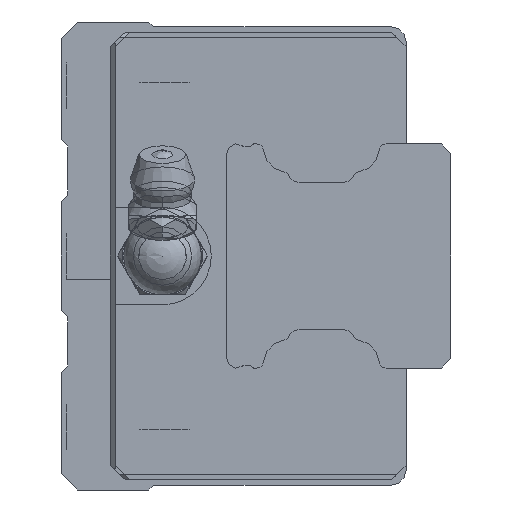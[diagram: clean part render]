
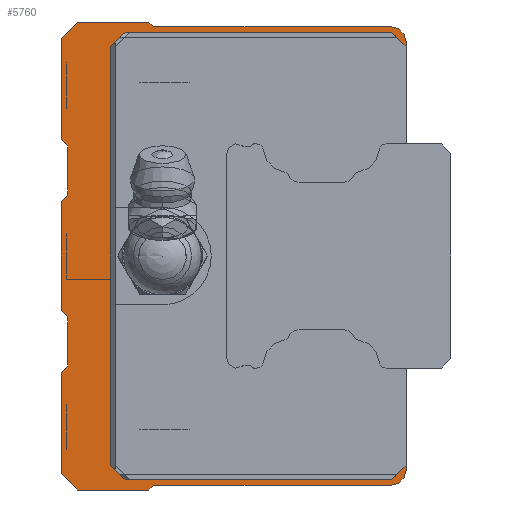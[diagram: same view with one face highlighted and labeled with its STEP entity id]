
A CAD part, left-side view. The second image highlights one B-rep face of the part: STEP entity #5760.
In plain terms, the highlighted planar face has unit normal (-1, 0, 0).
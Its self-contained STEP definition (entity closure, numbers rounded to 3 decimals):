
#107=LINE('',#9056,#457);
#116=LINE('',#9075,#466);
#123=LINE('',#9088,#473);
#149=LINE('',#9144,#499);
#157=LINE('',#9160,#507);
#163=LINE('',#9172,#513);
#188=LINE('',#9223,#538);
#193=LINE('',#9232,#543);
#195=LINE('',#9236,#545);
#216=LINE('',#9326,#566);
#220=LINE('',#9335,#570);
#223=LINE('',#9341,#573);
#227=LINE('',#9353,#577);
#231=LINE('',#9368,#581);
#235=LINE('',#9380,#585);
#238=LINE('',#9386,#588);
#241=LINE('',#9392,#591);
#244=LINE('',#9402,#594);
#247=LINE('',#9408,#597);
#251=LINE('',#9420,#601);
#255=LINE('',#9432,#605);
#258=LINE('',#9442,#608);
#261=LINE('',#9448,#611);
#265=LINE('',#9460,#615);
#269=LINE('',#9472,#619);
#272=LINE('',#9482,#622);
#457=VECTOR('',#7070,1000.);
#466=VECTOR('',#7085,1000.);
#473=VECTOR('',#7096,1000.);
#499=VECTOR('',#7136,1000.);
#507=VECTOR('',#7148,1000.);
#513=VECTOR('',#7160,1000.);
#538=VECTOR('',#7201,1000.);
#543=VECTOR('',#7208,1000.);
#545=VECTOR('',#7212,1000.);
#566=VECTOR('',#7287,1000.);
#570=VECTOR('',#7293,1000.);
#573=VECTOR('',#7298,1000.);
#577=VECTOR('',#7310,1000.);
#581=VECTOR('',#7328,1000.);
#585=VECTOR('',#7340,1000.);
#588=VECTOR('',#7345,1000.);
#591=VECTOR('',#7350,1000.);
#594=VECTOR('',#7359,1000.);
#597=VECTOR('',#7364,1000.);
#601=VECTOR('',#7376,1000.);
#605=VECTOR('',#7388,1000.);
#608=VECTOR('',#7397,1000.);
#611=VECTOR('',#7402,1000.);
#615=VECTOR('',#7414,1000.);
#619=VECTOR('',#7426,1000.);
#622=VECTOR('',#7435,1000.);
#813=PLANE('',#6270);
#1169=CIRCLE('',#6226,0.5);
#1171=CIRCLE('',#6230,1.5);
#1173=CIRCLE('',#6233,1.5);
#1175=CIRCLE('',#6237,0.5);
#1179=CIRCLE('',#6247,0.5);
#1181=CIRCLE('',#6251,0.5);
#1185=CIRCLE('',#6259,0.5);
#1187=CIRCLE('',#6263,0.5);
#1991=ORIENTED_EDGE('',*,*,#3099,.T.);
#1992=ORIENTED_EDGE('',*,*,#3106,.T.);
#1993=ORIENTED_EDGE('',*,*,#3179,.F.);
#1994=ORIENTED_EDGE('',*,*,#3243,.F.);
#1995=ORIENTED_EDGE('',*,*,#3240,.F.);
#1996=ORIENTED_EDGE('',*,*,#3237,.T.);
#1997=ORIENTED_EDGE('',*,*,#3234,.F.);
#1998=ORIENTED_EDGE('',*,*,#3231,.F.);
#1999=ORIENTED_EDGE('',*,*,#3227,.F.);
#2000=ORIENTED_EDGE('',*,*,#3305,.F.);
#2001=ORIENTED_EDGE('',*,*,#3300,.F.);
#2002=ORIENTED_EDGE('',*,*,#3297,.T.);
#2003=ORIENTED_EDGE('',*,*,#3294,.F.);
#2004=ORIENTED_EDGE('',*,*,#3291,.T.);
#2005=ORIENTED_EDGE('',*,*,#3288,.F.);
#2006=ORIENTED_EDGE('',*,*,#3285,.F.);
#2007=ORIENTED_EDGE('',*,*,#3280,.F.);
#2008=ORIENTED_EDGE('',*,*,#3277,.T.);
#2009=ORIENTED_EDGE('',*,*,#3274,.F.);
#2010=ORIENTED_EDGE('',*,*,#3271,.T.);
#2011=ORIENTED_EDGE('',*,*,#3268,.F.);
#2012=ORIENTED_EDGE('',*,*,#3265,.F.);
#2013=ORIENTED_EDGE('',*,*,#3260,.F.);
#2014=ORIENTED_EDGE('',*,*,#3257,.F.);
#2015=ORIENTED_EDGE('',*,*,#3254,.F.);
#2016=ORIENTED_EDGE('',*,*,#3251,.T.);
#2017=ORIENTED_EDGE('',*,*,#3248,.F.);
#2018=ORIENTED_EDGE('',*,*,#3245,.F.);
#2019=ORIENTED_EDGE('',*,*,#3181,.F.);
#2020=ORIENTED_EDGE('',*,*,#3141,.T.);
#2021=ORIENTED_EDGE('',*,*,#3148,.T.);
#2022=ORIENTED_EDGE('',*,*,#3133,.T.);
#2023=ORIENTED_EDGE('',*,*,#3174,.T.);
#2024=ORIENTED_EDGE('',*,*,#3089,.T.);
#3089=EDGE_CURVE('',#3809,#3808,#107,.T.);
#3099=EDGE_CURVE('',#3808,#3815,#116,.T.);
#3106=EDGE_CURVE('',#3815,#3819,#123,.T.);
#3133=EDGE_CURVE('',#3843,#3842,#149,.T.);
#3141=EDGE_CURVE('',#3849,#3848,#157,.T.);
#3148=EDGE_CURVE('',#3848,#3843,#163,.T.);
#3174=EDGE_CURVE('',#3842,#3809,#188,.T.);
#3179=EDGE_CURVE('',#3872,#3819,#193,.T.);
#3181=EDGE_CURVE('',#3849,#3874,#195,.T.);
#3227=EDGE_CURVE('',#3916,#3917,#216,.T.);
#3231=EDGE_CURVE('',#3917,#3920,#220,.T.);
#3234=EDGE_CURVE('',#3920,#3922,#223,.T.);
#3237=EDGE_CURVE('',#3924,#3922,#1169,.T.);
#3240=EDGE_CURVE('',#3924,#3926,#227,.T.);
#3243=EDGE_CURVE('',#3926,#3872,#1171,.T.);
#3245=EDGE_CURVE('',#3874,#3928,#1173,.T.);
#3248=EDGE_CURVE('',#3928,#3930,#231,.T.);
#3251=EDGE_CURVE('',#3932,#3930,#1175,.T.);
#3254=EDGE_CURVE('',#3932,#3934,#235,.T.);
#3257=EDGE_CURVE('',#3934,#3936,#238,.T.);
#3260=EDGE_CURVE('',#3936,#3938,#241,.T.);
#3265=EDGE_CURVE('',#3938,#3942,#244,.T.);
#3268=EDGE_CURVE('',#3942,#3944,#247,.T.);
#3271=EDGE_CURVE('',#3946,#3944,#1179,.T.);
#3274=EDGE_CURVE('',#3946,#3948,#251,.T.);
#3277=EDGE_CURVE('',#3950,#3948,#1181,.T.);
#3280=EDGE_CURVE('',#3950,#3952,#255,.T.);
#3285=EDGE_CURVE('',#3952,#3956,#258,.T.);
#3288=EDGE_CURVE('',#3956,#3958,#261,.T.);
#3291=EDGE_CURVE('',#3960,#3958,#1185,.T.);
#3294=EDGE_CURVE('',#3960,#3962,#265,.T.);
#3297=EDGE_CURVE('',#3964,#3962,#1187,.T.);
#3300=EDGE_CURVE('',#3964,#3966,#269,.T.);
#3305=EDGE_CURVE('',#3966,#3916,#272,.T.);
#3808=VERTEX_POINT('',#9055);
#3809=VERTEX_POINT('',#9057);
#3815=VERTEX_POINT('',#9074);
#3819=VERTEX_POINT('',#9087);
#3842=VERTEX_POINT('',#9143);
#3843=VERTEX_POINT('',#9145);
#3848=VERTEX_POINT('',#9159);
#3849=VERTEX_POINT('',#9161);
#3872=VERTEX_POINT('',#9231);
#3874=VERTEX_POINT('',#9237);
#3916=VERTEX_POINT('',#9327);
#3917=VERTEX_POINT('',#9328);
#3920=VERTEX_POINT('',#9336);
#3922=VERTEX_POINT('',#9342);
#3924=VERTEX_POINT('',#9348);
#3926=VERTEX_POINT('',#9354);
#3928=VERTEX_POINT('',#9363);
#3930=VERTEX_POINT('',#9369);
#3932=VERTEX_POINT('',#9375);
#3934=VERTEX_POINT('',#9381);
#3936=VERTEX_POINT('',#9387);
#3938=VERTEX_POINT('',#9393);
#3942=VERTEX_POINT('',#9403);
#3944=VERTEX_POINT('',#9409);
#3946=VERTEX_POINT('',#9415);
#3948=VERTEX_POINT('',#9421);
#3950=VERTEX_POINT('',#9427);
#3952=VERTEX_POINT('',#9433);
#3956=VERTEX_POINT('',#9443);
#3958=VERTEX_POINT('',#9449);
#3960=VERTEX_POINT('',#9455);
#3962=VERTEX_POINT('',#9461);
#3964=VERTEX_POINT('',#9467);
#3966=VERTEX_POINT('',#9473);
#4418=EDGE_LOOP('',(#1991,#1992,#1993,#1994,#1995,#1996,#1997,#1998,#1999,
#2000,#2001,#2002,#2003,#2004,#2005,#2006,#2007,#2008,#2009,#2010,#2011,
#2012,#2013,#2014,#2015,#2016,#2017,#2018,#2019,#2020,#2021,#2022,#2023,
#2024));
#5083=FACE_BOUND('',#4418,.T.);
#5760=ADVANCED_FACE('',(#5083),#813,.F.);
#6226=AXIS2_PLACEMENT_3D('',#9347,#7303,#7304);
#6230=AXIS2_PLACEMENT_3D('',#9359,#7315,#7316);
#6233=AXIS2_PLACEMENT_3D('',#9362,#7321,#7322);
#6237=AXIS2_PLACEMENT_3D('',#9374,#7333,#7334);
#6247=AXIS2_PLACEMENT_3D('',#9414,#7369,#7370);
#6251=AXIS2_PLACEMENT_3D('',#9426,#7381,#7382);
#6259=AXIS2_PLACEMENT_3D('',#9454,#7407,#7408);
#6263=AXIS2_PLACEMENT_3D('',#9466,#7419,#7420);
#6270=AXIS2_PLACEMENT_3D('',#9485,#7439,#7440);
#7070=DIRECTION('',(0.,-0.707,0.707));
#7085=DIRECTION('',(0.,-1.,0.));
#7096=DIRECTION('',(0.,-0.707,-0.707));
#7136=DIRECTION('',(0.,0.707,0.707));
#7148=DIRECTION('',(0.,0.707,-0.707));
#7160=DIRECTION('',(0.,1.,0.));
#7201=DIRECTION('',(0.,0.,1.));
#7208=DIRECTION('',(0.,0.,-1.));
#7212=DIRECTION('',(0.,0.,-1.));
#7287=DIRECTION('',(0.,-0.707,0.707));
#7293=DIRECTION('',(0.,-1.,0.));
#7298=DIRECTION('',(0.,-0.707,-0.707));
#7303=DIRECTION('',(1.,0.,0.));
#7304=DIRECTION('',(0.,0.,-1.));
#7310=DIRECTION('',(0.,-1.,0.));
#7315=DIRECTION('',(1.,0.,0.));
#7316=DIRECTION('',(0.,0.,-1.));
#7321=DIRECTION('',(1.,0.,0.));
#7322=DIRECTION('',(0.,0.,-1.));
#7328=DIRECTION('',(0.,1.,0.));
#7333=DIRECTION('',(1.,0.,0.));
#7334=DIRECTION('',(0.,0.,-1.));
#7340=DIRECTION('',(0.,0.707,-0.707));
#7345=DIRECTION('',(0.,1.,0.));
#7350=DIRECTION('',(0.,0.707,0.707));
#7359=DIRECTION('',(0.,0.,1.));
#7364=DIRECTION('',(0.,-0.707,0.707));
#7369=DIRECTION('',(1.,0.,0.));
#7370=DIRECTION('',(0.,0.,-1.));
#7376=DIRECTION('',(0.,0.,1.));
#7381=DIRECTION('',(1.,0.,0.));
#7382=DIRECTION('',(0.,0.,-1.));
#7388=DIRECTION('',(0.,0.707,0.707));
#7397=DIRECTION('',(0.,0.,1.));
#7402=DIRECTION('',(0.,-0.707,0.707));
#7407=DIRECTION('',(1.,0.,0.));
#7408=DIRECTION('',(0.,0.,-1.));
#7414=DIRECTION('',(0.,0.,1.));
#7419=DIRECTION('',(1.,0.,0.));
#7420=DIRECTION('',(0.,0.,-1.));
#7426=DIRECTION('',(0.,0.707,0.707));
#7435=DIRECTION('',(0.,0.,1.));
#7439=DIRECTION('',(1.,0.,0.));
#7440=DIRECTION('',(0.,0.,-1.));
#9055=CARTESIAN_POINT('',(-30.,28.82,22.95));
#9056=CARTESIAN_POINT('',(-30.,30.32,21.45));
#9057=CARTESIAN_POINT('',(-30.,30.32,21.45));
#9074=CARTESIAN_POINT('',(-30.,1.5,22.95));
#9075=CARTESIAN_POINT('',(-30.,28.82,22.95));
#9087=CARTESIAN_POINT('',(-30.,0.,21.45));
#9088=CARTESIAN_POINT('',(-30.,1.5,22.95));
#9143=CARTESIAN_POINT('',(-30.,30.32,-21.45));
#9144=CARTESIAN_POINT('',(-30.,28.82,-22.95));
#9145=CARTESIAN_POINT('',(-30.,28.82,-22.95));
#9159=CARTESIAN_POINT('',(-30.,1.5,-22.95));
#9160=CARTESIAN_POINT('',(-30.,0.,-21.45));
#9161=CARTESIAN_POINT('',(-30.,0.,-21.45));
#9172=CARTESIAN_POINT('',(-30.,1.5,-22.95));
#9223=CARTESIAN_POINT('',(-30.,30.32,-21.45));
#9231=CARTESIAN_POINT('',(-30.,0.,22.));
#9232=CARTESIAN_POINT('',(-30.,0.,22.));
#9236=CARTESIAN_POINT('',(-30.,0.,22.));
#9237=CARTESIAN_POINT('',(-30.,0.,-22.));
#9326=CARTESIAN_POINT('',(-30.,35.38,22.3));
#9327=CARTESIAN_POINT('',(-30.,35.38,22.3));
#9328=CARTESIAN_POINT('',(-30.,33.68,24.));
#9335=CARTESIAN_POINT('',(-30.,33.68,24.));
#9336=CARTESIAN_POINT('',(-30.,26.38,24.));
#9341=CARTESIAN_POINT('',(-30.,26.38,24.));
#9342=CARTESIAN_POINT('',(-30.,26.026,23.646));
#9347=CARTESIAN_POINT('',(-30.,25.673,24.));
#9348=CARTESIAN_POINT('',(-30.,25.673,23.5));
#9353=CARTESIAN_POINT('',(-30.,25.673,23.5));
#9354=CARTESIAN_POINT('',(-30.,1.5,23.5));
#9359=CARTESIAN_POINT('',(-30.,1.5,22.));
#9362=CARTESIAN_POINT('',(-30.,1.5,-22.));
#9363=CARTESIAN_POINT('',(-30.,1.5,-23.5));
#9368=CARTESIAN_POINT('',(-30.,1.5,-23.5));
#9369=CARTESIAN_POINT('',(-30.,25.673,-23.5));
#9374=CARTESIAN_POINT('',(-30.,25.673,-24.));
#9375=CARTESIAN_POINT('',(-30.,26.026,-23.646));
#9380=CARTESIAN_POINT('',(-30.,26.026,-23.646));
#9381=CARTESIAN_POINT('',(-30.,26.38,-24.));
#9386=CARTESIAN_POINT('',(-30.,26.38,-24.));
#9387=CARTESIAN_POINT('',(-30.,33.68,-24.));
#9392=CARTESIAN_POINT('',(-30.,33.68,-24.));
#9393=CARTESIAN_POINT('',(-30.,35.38,-22.3));
#9402=CARTESIAN_POINT('',(-30.,35.38,-22.3));
#9403=CARTESIAN_POINT('',(-30.,35.38,-11.95));
#9408=CARTESIAN_POINT('',(-30.,35.38,-11.95));
#9409=CARTESIAN_POINT('',(-30.,34.826,-11.396));
#9414=CARTESIAN_POINT('',(-30.,35.18,-11.043));
#9415=CARTESIAN_POINT('',(-30.,34.68,-11.043));
#9420=CARTESIAN_POINT('',(-30.,34.68,-11.043));
#9421=CARTESIAN_POINT('',(-30.,34.68,-6.457));
#9426=CARTESIAN_POINT('',(-30.,35.18,-6.457));
#9427=CARTESIAN_POINT('',(-30.,34.826,-6.104));
#9432=CARTESIAN_POINT('',(-30.,34.826,-6.104));
#9433=CARTESIAN_POINT('',(-30.,35.38,-5.55));
#9442=CARTESIAN_POINT('',(-30.,35.38,-5.55));
#9443=CARTESIAN_POINT('',(-30.,35.38,5.55));
#9448=CARTESIAN_POINT('',(-30.,35.38,5.55));
#9449=CARTESIAN_POINT('',(-30.,34.826,6.104));
#9454=CARTESIAN_POINT('',(-30.,35.18,6.457));
#9455=CARTESIAN_POINT('',(-30.,34.68,6.457));
#9460=CARTESIAN_POINT('',(-30.,34.68,6.457));
#9461=CARTESIAN_POINT('',(-30.,34.68,11.043));
#9466=CARTESIAN_POINT('',(-30.,35.18,11.043));
#9467=CARTESIAN_POINT('',(-30.,34.826,11.396));
#9472=CARTESIAN_POINT('',(-30.,34.826,11.396));
#9473=CARTESIAN_POINT('',(-30.,35.38,11.95));
#9482=CARTESIAN_POINT('',(-30.,35.38,11.95));
#9485=CARTESIAN_POINT('',(-30.,25.673,24.));
